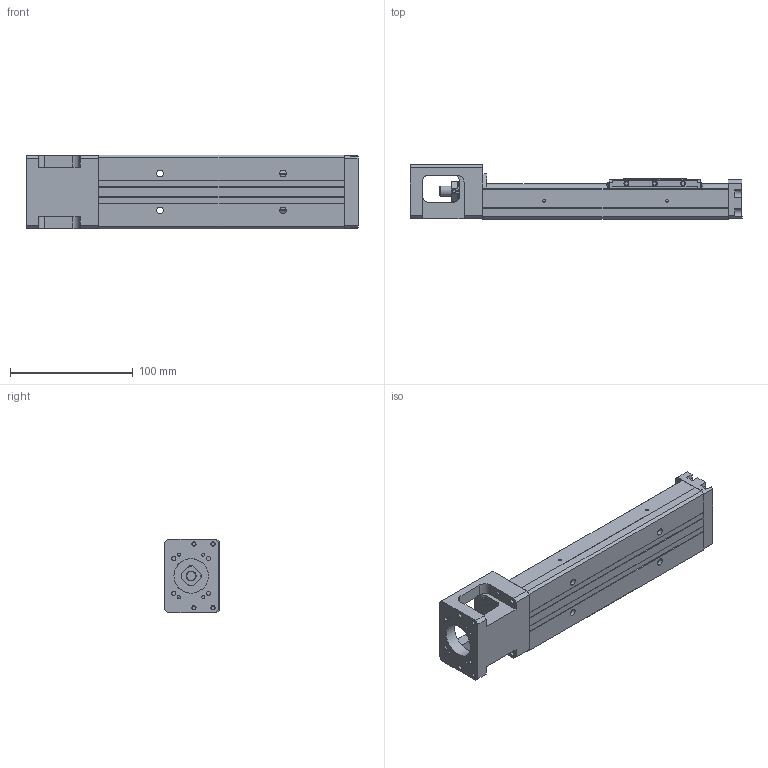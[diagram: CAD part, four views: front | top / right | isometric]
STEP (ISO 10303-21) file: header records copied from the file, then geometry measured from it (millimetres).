
FILE_DESCRIPTION(/* description */ (''),/* implementation_level */ '2;1');
FILE_NAME(/* name */ 'KP33N-200C02-D.stp',/* time_stamp */ '2020-07-01T11:29:01+08:00',/* author */ (''),/* organization */ (''),/* preprocessor_version */ 'ST-DEVELOPER v14',/* originating_system */ 'SIEMENS PLM Software NX 8.0',/* authorisation */ '');
FILE_SCHEMA (('AUTOMOTIVE_DESIGN { 1 0 10303 214 3 1 1 1 }'));
Length unit declared in the file: millimetre
Products named in the file (1): model1
Bounding box: 270 x 44.45 x 60 mm (x, y, z)
Volume: 346800.5 mm3; surface area: 97503.1 mm2
Topology: 5 solids, 10 shells, 606 faces, 1556 edges, 1024 vertices
Faces by surface type: plane 358, cylinder 165, bspline 31, cone 22, extrusion 21, torus 7, sphere 2
Full cylindrical faces by diameter (mm): 1.6 x2, 1.65 x4, 2.15 x2, 2.42 x4, 2.45 x2, 2.5 x8, 3 x3, 3.2 x4, 3.3 x4, 3.4 x3, 3.5 x10, 3.969 x1, 4 x6, 4.001 x1, 4.135 x4, 5.5 x4, 6 x4, 7.6 x1, 8 x5, 9.5 x4, 10.72 x3, 11.8 x2, 12 x6, 12.8 x1, 13 x2, 14 x1, 16 x4, 21.5 x1, 28 x1
Entity records: 28978 total; most frequent: CARTESIAN_POINT 15039, DIRECTION 2781, ORIENTED_EDGE 2728, EDGE_CURVE 1364, AXIS2_PLACEMENT_3D 968, VERTEX_POINT 958, VECTOR 845, EDGE_LOOP 842
